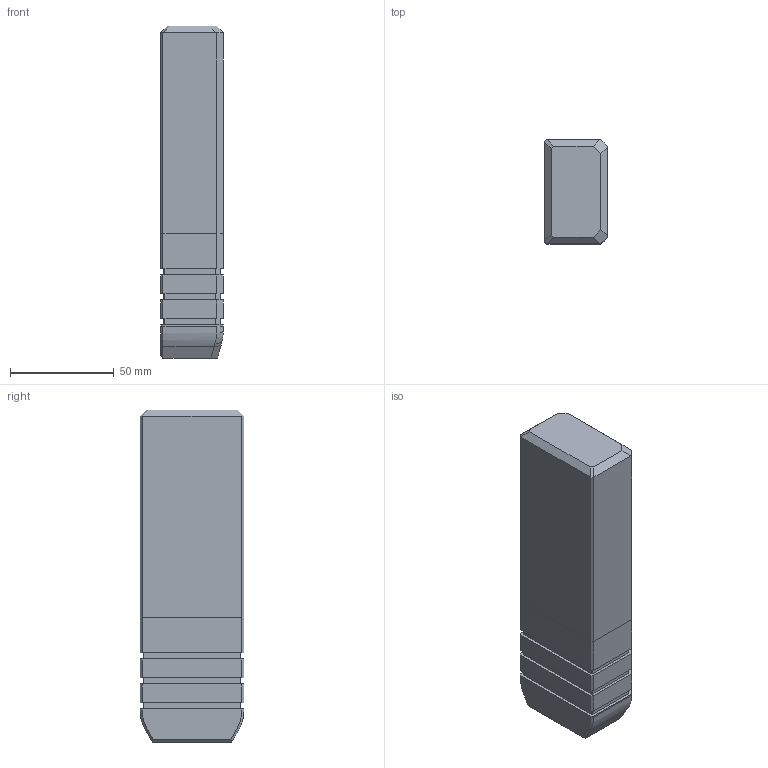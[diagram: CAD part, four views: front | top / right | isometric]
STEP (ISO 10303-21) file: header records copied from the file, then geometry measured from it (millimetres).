
FILE_DESCRIPTION((''),'2;1');
FILE_NAME('','2010-08-30T13:15:49+09:00',('misumi'),(''),'M/STEP i/f 1R2-14','CADmeister v5.1','');
FILE_SCHEMA(('AUTOMOTIVE_DESIGN'));
Length unit declared in the file: millimetre
Products named in the file (1): GWZ50-160
Bounding box: 30 x 50 x 160 mm (x, y, z)
Volume: 233176.3 mm3; surface area: 28259.2 mm2
Topology: 1 solids, 1 shells, 99 faces, 251 edges, 160 vertices
Faces by surface type: plane 88, bspline 6, cylinder 3, cone 2
Entity records: 3267 total; most frequent: CARTESIAN_POINT 853, ORIENTED_EDGE 502, DIRECTION 425, EDGE_CURVE 251, LINE 229, VECTOR 229, VERTEX_POINT 160, EDGE_LOOP 105
